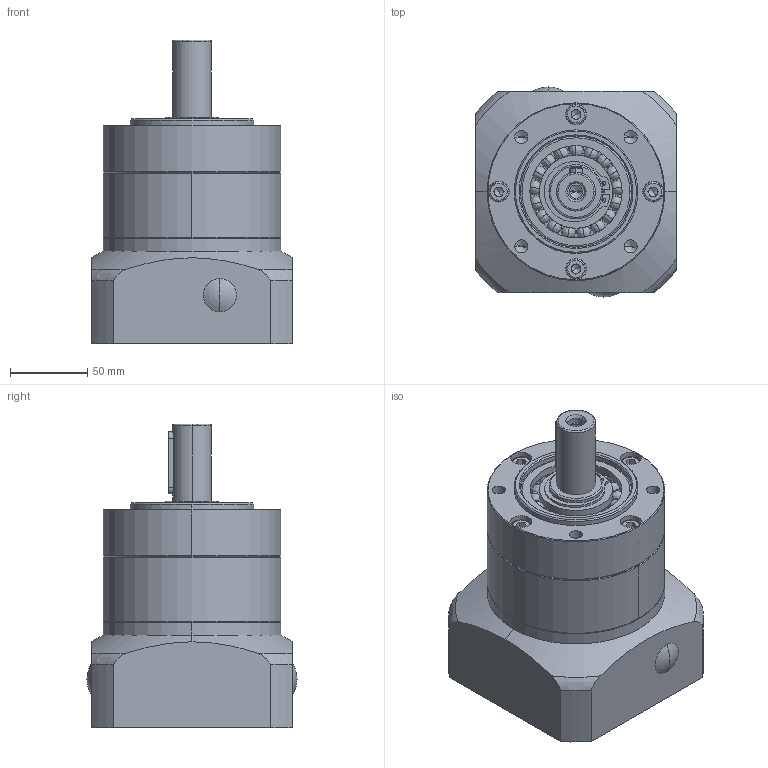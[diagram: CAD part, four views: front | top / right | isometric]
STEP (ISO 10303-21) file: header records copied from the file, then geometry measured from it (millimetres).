
FILE_DESCRIPTION (( 'STEP AP214' ), '1' );
FILE_NAME ('PL120L1-110-24-M8-145.STEP', '2020-09-12T09:09:56', ( '微软用户' ), ( '微软中国' ), 'SwSTEP 2.0', 'SolidWorks 2014', '' );
FILE_SCHEMA (( 'AUTOMOTIVE_DESIGN' ));
Length unit declared in the file: millimetre
Products named in the file (73): 苤菜え27X13.6; 俴陎謫35; 囀喘謫84; 怀堤傷裔; Spring lock washers--Normal type GB_GB_FASTENER_WASHER_SW 8; Hexagon socket head cap screws GB_GB_FASTENER_SCREWS_HSHCS M8X35-N; O形圈2.5X72; す瑩怀堤粣; Parallel pins Unhardening Steel GB_GB_CONNECTING_PIECE_PIN_PPUS 6X14; Deep groove ball bearings GB_Rolling bearings 6207 GB 276-94; 夹头输入轴24; 怮栠謫12; Circlips for shaft--Type B GB_GB_CONNECTING_PIECE_RINGS_CSB 35; Circlips for hole--Type B GB_GB_CONNECTING_PIECE_RINGS_CHB 72; 俴陎粣13.513X26; 幗渀粣創13.513X18.513; 路燭菜え25X82.5; Plain parallel keys_GB_CONNECTING_PIECE_KEYS_CSK 8X40; Hexagon socket head cap screws GB_GB_FASTENER_SCREWS_HSHCS M8X45-N; 黑裔15; 130输入端盖; Hexagon socket head cap screws GB_GB_FASTENER_SCREWS_HSHCS M6X20-N; PL120L1-110-24-M8-145
Assembly tree (50 placements, depth 2):
  Spring lock washers--Normal type GB_GB_FASTENER_WASHER_SW 8
  Hexagon socket head cap screws GB_GB_FASTENER_SCREWS_HSHCS M8X35-N
  O形圈2.5X72
  す瑩怀堤粣
  Hexagon socket head cap screws GB_GB_FASTENER_SCREWS_HSHCS M8X35-N
Bounding box: 130 x 136 x 196.5 mm (x, y, z)
Volume: 1403105.4 mm3; surface area: 346866.9 mm2
Topology: 50 solids, 50 shells, 1355 faces, 3975 edges, 2440 vertices
Faces by surface type: cylinder 483, plane 366, bspline 332, cone 164, torus 10
Entity records: 29070 total; most frequent: CARTESIAN_POINT 8900, DIRECTION 3935, ORIENTED_EDGE 3884, EDGE_CURVE 1942, AXIS2_PLACEMENT_3D 1644, VERTEX_POINT 1272, CIRCLE 958, EDGE_LOOP 882
